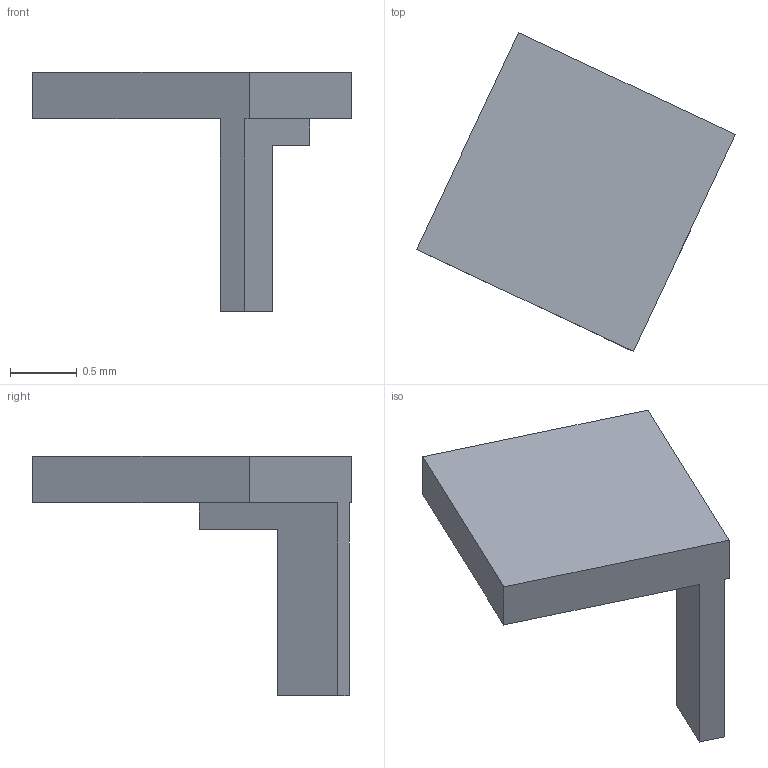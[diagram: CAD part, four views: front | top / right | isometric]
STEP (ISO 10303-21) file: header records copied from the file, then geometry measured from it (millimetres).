
FILE_DESCRIPTION(('FreeCAD Model'),'2;1');
FILE_NAME('Open CASCADE Shape Model','2026-10-23T21:15:57',('FreeCAD'),( 'FreeCAD'),'Open CASCADE STEP processor 7.8','FreeCAD','Unknown');
FILE_SCHEMA(('AUTOMOTIVE_DESIGN { 1 0 10303 214 1 1 1 1 }'));
Length unit declared in the file: millimetre
Products named in the file (1): Open CASCADE STEP translator 7.8 18
Bounding box: 2.4 x 2.4 x 1.8 mm (x, y, z)
Volume: 1.3 mm3; surface area: 11.3 mm2
Topology: 1 solids, 1 shells, 12 faces, 30 edges, 20 vertices
Faces by surface type: plane 12
Entity records: 364 total; most frequent: CARTESIAN_POINT 63, ORIENTED_EDGE 60, DIRECTION 56, EDGE_CURVE 30, LINE 30, VECTOR 30, VERTEX_POINT 20, AXIS2_PLACEMENT_3D 13
